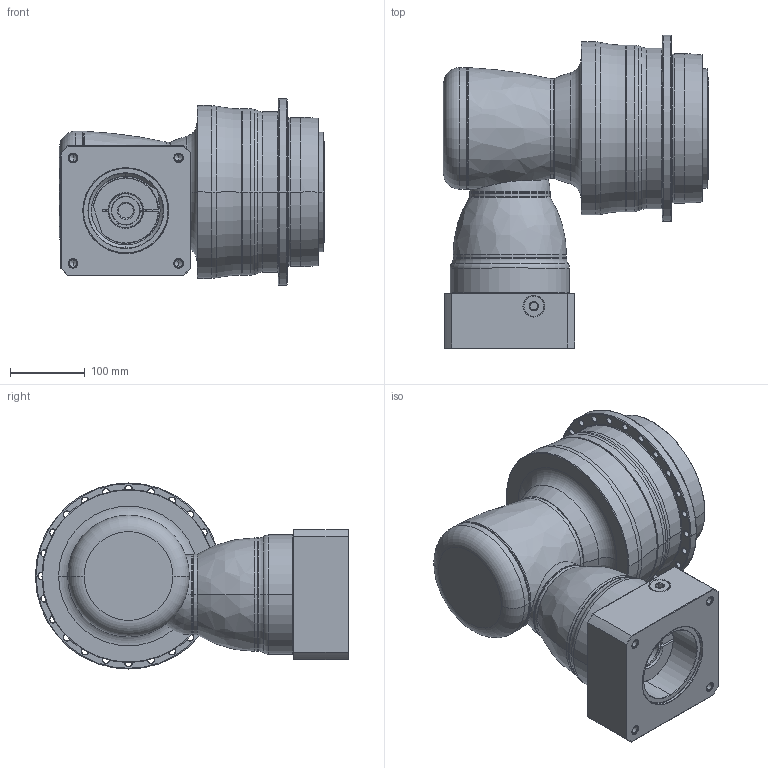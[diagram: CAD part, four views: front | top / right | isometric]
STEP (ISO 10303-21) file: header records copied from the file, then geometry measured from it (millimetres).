
FILE_DESCRIPTION((''),'2;1');
FILE_NAME('APK200_3ST_38-P0409910201_ASM','2018-07-25T',('D00080'),(''),'PRO/ENGINEER BY PARAMETRIC TECHNOLOGY CORPORATION, 2008170','PRO/ENGINEER BY PARAMETRIC TECHNOLOGY CORPORATION, 2008170','');
FILE_SCHEMA(('CONFIG_CONTROL_DESIGN'));
Length unit declared in the file: millimetre
Products named in the file (13): P1008500002; P1832600001; P0278601003; P0359601103; P1211600001; P1315500001; P1007501001; P1318501401; P0503900012; P0912554001; P0409910201; 21711422019; APK200_3ST_38-P0409910201_ASM
Assembly tree (12 placements, depth 2):
  APK200_3ST_38-P0409910201_ASM
    P1008500002
    P1832600001
    P0278601003
    P0359601103
    P1211600001
    P1315500001
    P1007501001
    P1318501401
    P0503900012
    P0912554001
    P0409910201
    21711422019
Bounding box: 355.5 x 419.75 x 249.5 mm (x, y, z)
Volume: 13731179 mm3; surface area: 1022364.7 mm2
Topology: 13 solids, 38 shells, 767 faces, 1794 edges, 1083 vertices
Faces by surface type: cylinder 310, cone 224, plane 129, torus 81, bspline 21, sphere 2
Entity records: 27117 total; most frequent: CARTESIAN_POINT 8929, DIRECTION 4184, ORIENTED_EDGE 3398, AXIS2_PLACEMENT_3D 1793, EDGE_CURVE 1750, VERTEX_POINT 1083, CIRCLE 1012, EDGE_LOOP 905
